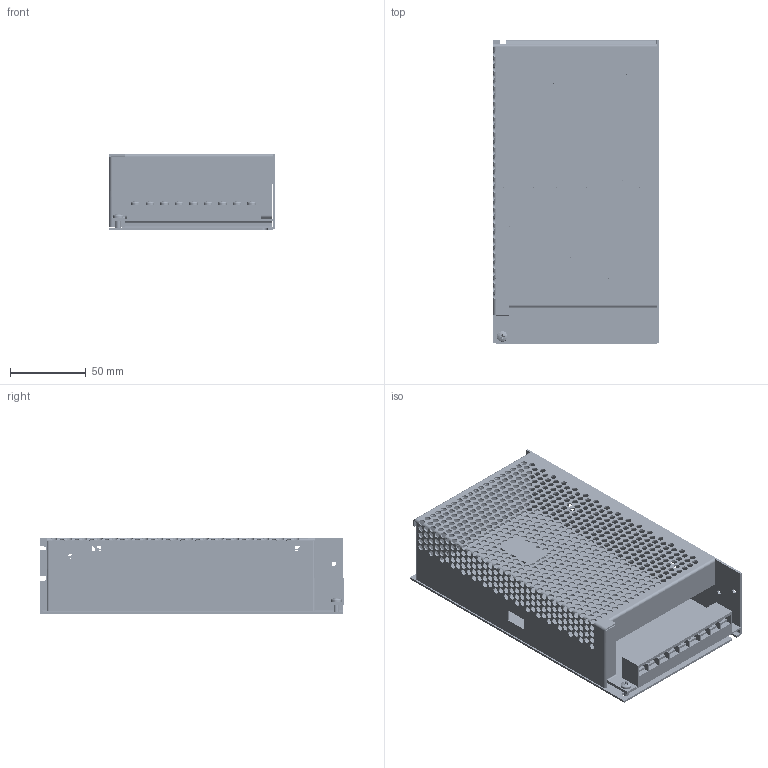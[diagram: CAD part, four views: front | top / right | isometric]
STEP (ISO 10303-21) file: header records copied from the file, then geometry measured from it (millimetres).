
FILE_DESCRIPTION (( 'STEP AP203' ), '1' );
FILE_NAME ('MS - 201 - 12.STEP', '2020-02-26T14:10:56', ( '' ), ( '' ), 'SwSTEP 2.0', 'SolidWorks 2019', '' );
FILE_SCHEMA (( 'CONFIG_CONTROL_DESIGN' ));
Products named in the file (1): MS - 201 - 12
Bounding box: 110 x 200.64 x 50 mm (x, y, z)
Volume: 110198.2 mm3; surface area: 173446.1 mm2
Topology: 14 solids, 14 shells, 2164 faces, 6208 edges, 4013 vertices
Faces by surface type: cylinder 1702, plane 368, bspline 50, torus 20, sphere 20, cone 4
Entity records: 78724 total; most frequent: CARTESIAN_POINT 16120, DIRECTION 13807, ORIENTED_EDGE 12416, EDGE_CURVE 6208, AXIS2_PLACEMENT_3D 5684, VERTEX_POINT 4013, EDGE_LOOP 3697, CIRCLE 3569
